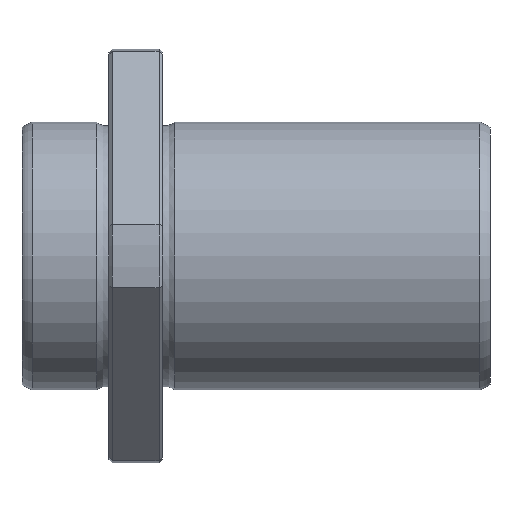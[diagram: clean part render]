
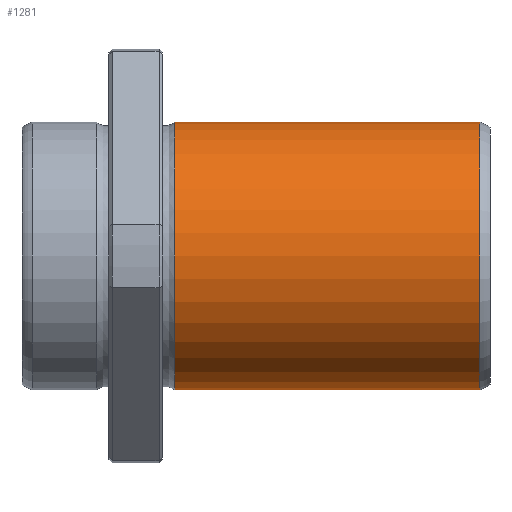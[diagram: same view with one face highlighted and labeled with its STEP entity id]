
A CAD part, front view. The second image highlights one B-rep face of the part: STEP entity #1281.
In plain terms, the highlighted cylindrical face has radius 20 mm (diameter 40 mm), a full revolution.
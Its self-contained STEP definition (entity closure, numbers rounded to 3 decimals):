
#1247=CARTESIAN_POINT('',(68.502,0.0,20.));
#1248=VERTEX_POINT('',#1247);
#1249=CARTESIAN_POINT('',(68.502,0.0,0.0));
#1250=DIRECTION('',(-1.0,0.0,0.0));
#1251=DIRECTION('',(0.0,0.0,1.0));
#1252=AXIS2_PLACEMENT_3D('',#1249,#1250,#1251);
#1253=CIRCLE('',#1252,20.);
#1254=EDGE_CURVE('',#1248,#1248,#1253,.T.);
#1262=CARTESIAN_POINT('',(45.662,0.0,0.0));
#1263=DIRECTION('',(-1.0,0.0,0.0));
#1264=DIRECTION('',(0.0,0.0,1.0));
#1265=AXIS2_PLACEMENT_3D('',#1262,#1263,#1264);
#1266=CYLINDRICAL_SURFACE('',#1265,20.);
#1267=CARTESIAN_POINT('',(22.823,0.0,20.));
#1268=VERTEX_POINT('',#1267);
#1269=CARTESIAN_POINT('',(22.823,0.0,0.0));
#1270=DIRECTION('',(-1.0,0.0,0.0));
#1271=DIRECTION('',(0.0,0.0,1.0));
#1272=AXIS2_PLACEMENT_3D('',#1269,#1270,#1271);
#1273=CIRCLE('',#1272,20.);
#1274=EDGE_CURVE('',#1268,#1268,#1273,.T.);
#1275=ORIENTED_EDGE('',*,*,#1274,.F.);
#1276=EDGE_LOOP('',(#1275));
#1277=FACE_OUTER_BOUND('',#1276,.T.);
#1278=ORIENTED_EDGE('',*,*,#1254,.T.);
#1279=EDGE_LOOP('',(#1278));
#1280=FACE_BOUND('',#1279,.T.);
#1281=ADVANCED_FACE('',(#1277,#1280),#1266,.T.);
